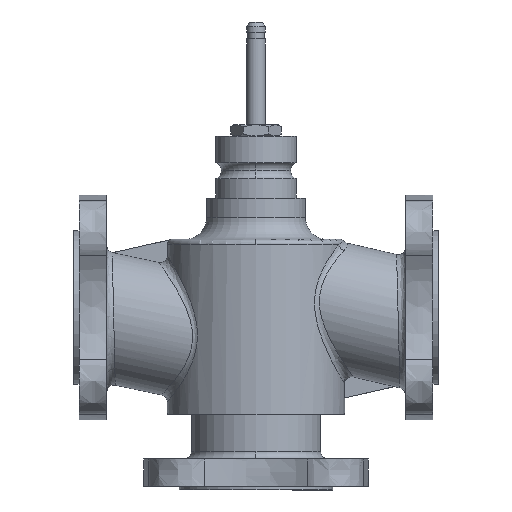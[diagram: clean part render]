
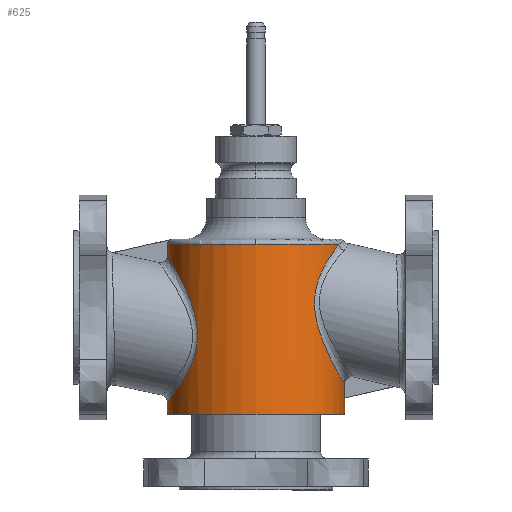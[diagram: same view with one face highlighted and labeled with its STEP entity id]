
A CAD part, left-side view. The second image highlights one B-rep face of the part: STEP entity #625.
In plain terms, the highlighted cylindrical face has radius 48.529 mm (diameter 97.059 mm), a partial arc.
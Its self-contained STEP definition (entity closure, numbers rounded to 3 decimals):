
#119=CYLINDRICAL_SURFACE('',#2832,48.529);
#184=FACE_OUTER_BOUND('',#1002,.T.);
#323=ELLIPSE('',#2829,49.745,48.529);
#331=LINE('',#4042,#465);
#332=LINE('',#4047,#466);
#333=LINE('',#4051,#467);
#334=LINE('',#4078,#468);
#465=VECTOR('',#3143,1.);
#466=VECTOR('',#3146,1.);
#467=VECTOR('',#3149,1.);
#468=VECTOR('',#3154,1.);
#625=ADVANCED_FACE('',(#184),#119,.T.);
#841=B_SPLINE_CURVE_WITH_KNOTS('',3,(#4053,#4054,#4055,#4056,#4057,#4058,
#4059,#4060,#4061,#4062,#4063,#4064,#4065,#4066,#4067,#4068,#4069,#4070,
#4071,#4072),.UNSPECIFIED.,.F.,.F.,(4,2,2,2,2,2,2,2,2,4),(0.,0.126,
0.253,0.36,0.445,0.53,
0.633,0.756,0.953,1.),.UNSPECIFIED.);
#842=B_SPLINE_CURVE_WITH_KNOTS('',3,(#4080,#4081,#4082,#4083,#4084,#4085,
#4086,#4087,#4088,#4089,#4090,#4091,#4092,#4093,#4094,#4095,#4096,#4097,
#4098,#4099,#4100,#4101,#4102,#4103),.UNSPECIFIED.,.F.,.F.,(4,2,2,2,2,2,
2,2,2,2,2,4),(0.,0.077,0.173,0.304,
0.444,0.518,0.591,0.682,
0.806,0.902,0.998,1.),.UNSPECIFIED.);
#1002=EDGE_LOOP('',(#1232,#1233,#1234,#1235,#1236,#1237,#1238,#1239,#1240,
#1241));
#1232=ORIENTED_EDGE('',*,*,#2287,.F.);
#1233=ORIENTED_EDGE('',*,*,#2288,.T.);
#1234=ORIENTED_EDGE('',*,*,#2289,.F.);
#1235=ORIENTED_EDGE('',*,*,#2290,.T.);
#1236=ORIENTED_EDGE('',*,*,#2291,.T.);
#1237=ORIENTED_EDGE('',*,*,#2292,.F.);
#1238=ORIENTED_EDGE('',*,*,#2293,.F.);
#1239=ORIENTED_EDGE('',*,*,#2294,.F.);
#1240=ORIENTED_EDGE('',*,*,#2295,.T.);
#1241=ORIENTED_EDGE('',*,*,#2296,.F.);
#2026=VERTEX_POINT('',#4043);
#2027=VERTEX_POINT('',#4044);
#2028=VERTEX_POINT('',#4046);
#2029=VERTEX_POINT('',#4048);
#2030=VERTEX_POINT('',#4050);
#2031=VERTEX_POINT('',#4052);
#2032=VERTEX_POINT('',#4073);
#2033=VERTEX_POINT('',#4075);
#2034=VERTEX_POINT('',#4077);
#2035=VERTEX_POINT('',#4079);
#2287=EDGE_CURVE('',#2026,#2027,#331,.T.);
#2288=EDGE_CURVE('',#2026,#2028,#2668,.T.);
#2289=EDGE_CURVE('',#2029,#2028,#332,.T.);
#2290=EDGE_CURVE('',#2029,#2030,#323,.T.);
#2291=EDGE_CURVE('',#2030,#2031,#333,.T.);
#2292=EDGE_CURVE('',#2032,#2031,#841,.T.);
#2293=EDGE_CURVE('',#2033,#2032,#2669,.T.);
#2294=EDGE_CURVE('',#2034,#2033,#2670,.T.);
#2295=EDGE_CURVE('',#2034,#2035,#334,.T.);
#2296=EDGE_CURVE('',#2027,#2035,#842,.T.);
#2668=CIRCLE('',#2828,48.529);
#2669=CIRCLE('',#2830,48.529);
#2670=CIRCLE('',#2831,48.529);
#2828=AXIS2_PLACEMENT_3D('',#4045,#3144,#3145);
#2829=AXIS2_PLACEMENT_3D('',#4049,#3147,#3148);
#2830=AXIS2_PLACEMENT_3D('',#4074,#3150,#3151);
#2831=AXIS2_PLACEMENT_3D('',#4076,#3152,#3153);
#2832=AXIS2_PLACEMENT_3D('',#4104,#3155,#3156);
#3143=DIRECTION('',(0.,0.,1.));
#3144=DIRECTION('',(0.,0.,1.));
#3145=DIRECTION('',(0.,1.,0.));
#3146=DIRECTION('',(0.,0.,-1.));
#3147=DIRECTION('',(0.,-0.22,-0.976));
#3148=DIRECTION('',(0.,0.976,-0.22));
#3149=DIRECTION('',(0.,0.,1.));
#3150=DIRECTION('',(0.,0.,1.));
#3151=DIRECTION('',(0.,-1.,0.));
#3152=DIRECTION('',(0.,0.,1.));
#3153=DIRECTION('',(0.,-1.,0.));
#3154=DIRECTION('',(0.,0.,-1.));
#3155=DIRECTION('',(0.,0.,1.));
#3156=DIRECTION('',(0.,-1.,0.));
#4042=CARTESIAN_POINT('',(0.,248.529,-55.467));
#4043=CARTESIAN_POINT('',(0.,248.529,-58.467));
#4044=CARTESIAN_POINT('',(0.,248.529,-51.825));
#4045=CARTESIAN_POINT('',(0.,200.,-58.467));
#4046=CARTESIAN_POINT('',(0.,151.471,-58.467));
#4047=CARTESIAN_POINT('',(0.,151.471,-49.547));
#4048=CARTESIAN_POINT('',(0.,151.471,-49.547));
#4049=CARTESIAN_POINT('',(0.,200.,-60.476));
#4050=CARTESIAN_POINT('',(-2.689,151.545,-49.564));
#4051=CARTESIAN_POINT('',(-2.689,151.545,-49.564));
#4052=CARTESIAN_POINT('',(-2.689,151.545,-41.975));
#4053=CARTESIAN_POINT('',(-17.448,154.72,34.683));
#4054=CARTESIAN_POINT('',(-21.047,156.113,32.845));
#4055=CARTESIAN_POINT('',(-24.277,157.853,30.44));
#4056=CARTESIAN_POINT('',(-29.728,161.501,24.655));
#4057=CARTESIAN_POINT('',(-31.999,163.447,21.195));
#4058=CARTESIAN_POINT('',(-34.949,166.279,14.021));
#4059=CARTESIAN_POINT('',(-35.855,167.292,10.314));
#4060=CARTESIAN_POINT('',(-36.496,168.01,3.491));
#4061=CARTESIAN_POINT('',(-36.444,167.951,0.344));
#4062=CARTESIAN_POINT('',(-35.778,167.208,-5.704));
#4063=CARTESIAN_POINT('',(-35.172,166.543,-8.639));
#4064=CARTESIAN_POINT('',(-33.351,164.718,-14.873));
#4065=CARTESIAN_POINT('',(-32.049,163.502,-18.078));
#4066=CARTESIAN_POINT('',(-28.556,160.686,-24.718));
#4067=CARTESIAN_POINT('',(-26.243,159.061,-28.055));
#4068=CARTESIAN_POINT('',(-19.208,155.16,-35.661));
#4069=CARTESIAN_POINT('',(-13.667,152.998,-39.441));
#4070=CARTESIAN_POINT('',(-5.825,151.797,-41.539));
#4071=CARTESIAN_POINT('',(-4.263,151.635,-41.821));
#4072=CARTESIAN_POINT('',(-2.688,151.547,-41.973));
#4073=CARTESIAN_POINT('',(-17.443,154.714,34.686));
#4074=CARTESIAN_POINT('',(0.,200.,34.686));
#4075=CARTESIAN_POINT('',(-48.529,200.,34.686));
#4076=CARTESIAN_POINT('',(0.,200.,34.686));
#4077=CARTESIAN_POINT('',(-2.689,248.455,34.686));
#4078=CARTESIAN_POINT('',(-2.689,248.455,34.686));
#4079=CARTESIAN_POINT('',(-2.689,248.455,28.62));
#4080=CARTESIAN_POINT('',(0.,248.529,-51.825));
#4081=CARTESIAN_POINT('',(-3.035,248.529,-51.825));
#4082=CARTESIAN_POINT('',(-6.078,248.239,-51.466));
#4083=CARTESIAN_POINT('',(-12.637,247.001,-49.895));
#4084=CARTESIAN_POINT('',(-16.127,245.896,-48.482));
#4085=CARTESIAN_POINT('',(-23.457,242.732,-44.154));
#4086=CARTESIAN_POINT('',(-27.112,240.408,-40.821));
#4087=CARTESIAN_POINT('',(-32.953,235.833,-32.526));
#4088=CARTESIAN_POINT('',(-35.101,233.536,-27.265));
#4089=CARTESIAN_POINT('',(-36.409,232.092,-18.341));
#4090=CARTESIAN_POINT('',(-36.505,231.978,-15.177));
#4091=CARTESIAN_POINT('',(-36.061,232.478,-8.913));
#4092=CARTESIAN_POINT('',(-35.534,233.07,-5.882));
#4093=CARTESIAN_POINT('',(-33.822,234.828,0.642));
#4094=CARTESIAN_POINT('',(-32.505,236.096,4.067));
#4095=CARTESIAN_POINT('',(-28.713,239.226,11.517));
#4096=CARTESIAN_POINT('',(-25.933,241.192,15.447));
#4097=CARTESIAN_POINT('',(-19.994,244.317,21.365));
#4098=CARTESIAN_POINT('',(-16.997,245.586,23.633));
#4099=CARTESIAN_POINT('',(-10.378,247.532,27.049));
#4100=CARTESIAN_POINT('',(-6.675,248.216,28.213));
#4101=CARTESIAN_POINT('',(-2.832,248.447,28.606));
#4102=CARTESIAN_POINT('',(-2.76,248.451,28.613));
#4103=CARTESIAN_POINT('',(-2.689,248.455,28.62));
#4104=CARTESIAN_POINT('',(0.,200.,-8.763));
